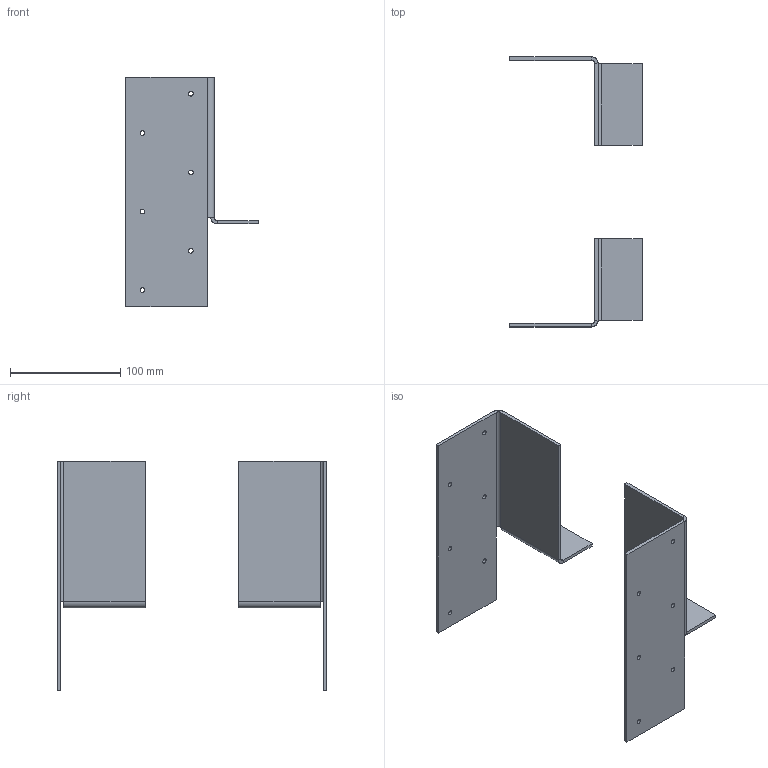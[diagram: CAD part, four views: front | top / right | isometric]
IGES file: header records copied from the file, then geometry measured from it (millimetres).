
Start section: SolidWorks IGES file using analytic representation for surfaces
Global section: file name: C:\Users\cbrechard\Desktop\PE 378 DBR et GBR.IGS; native system: SolidWorks 2017; preprocessor: SolidWorks 2017; author: cbrechard; date: 191025.150918; units: millimetre
Bounding box: 120 x 244.73 x 208 mm (x, y, z)
Surface area: 120823.3 mm2 (no closed solid volume)
Topology: 0 solids, 0 shells, 70 faces, 1164 edges, 1164 vertices
Faces by surface type: bspline 38, revolution 32
